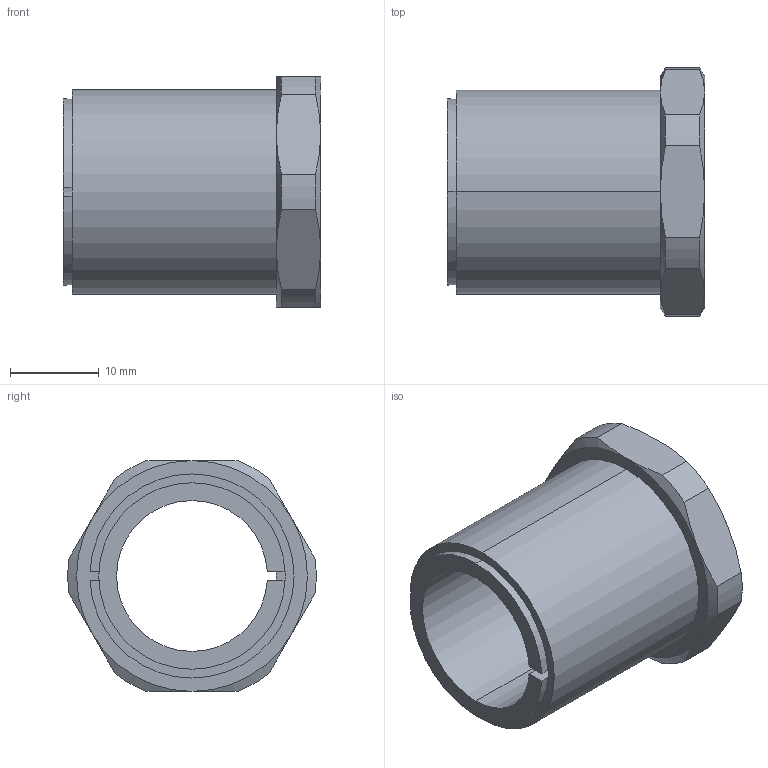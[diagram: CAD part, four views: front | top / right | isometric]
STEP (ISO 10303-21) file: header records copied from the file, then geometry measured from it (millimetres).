
FILE_DESCRIPTION (( 'STEP AP203' ), '1' );
FILE_NAME ('KBS 57 - 17 x 23.STEP', '2015-07-05T18:34:55', ( '' ), ( '' ), 'SwSTEP 2.0', 'SolidWorks 2010', '' );
FILE_SCHEMA (( 'CONFIG_CONTROL_DESIGN' ));
Length unit declared in the file: millimetre
Products named in the file (1): KBS 57 - 17 x 23
Bounding box: 29 x 27.97 x 26 mm (x, y, z)
Volume: 6031.6 mm3; surface area: 4527.2 mm2
Topology: 1 solids, 1 shells, 47 faces, 118 edges, 74 vertices
Faces by surface type: cylinder 16, plane 16, cone 15
Entity records: 1557 total; most frequent: CARTESIAN_POINT 356, DIRECTION 240, ORIENTED_EDGE 236, EDGE_CURVE 118, AXIS2_PLACEMENT_3D 100, VERTEX_POINT 74, CIRCLE 52, EDGE_LOOP 50
